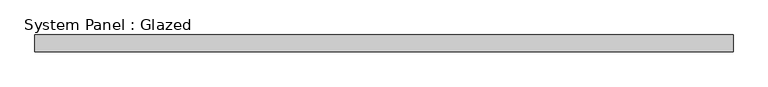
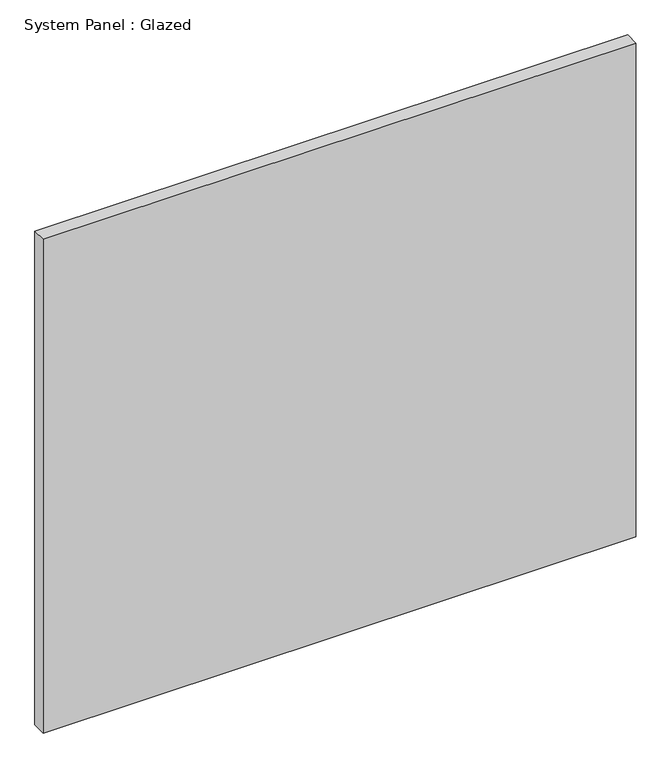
"""IFC4 building model written with IfcOpenShell, lengths in millimetres: plate geometry, System Panel : Glazed."""

import ifcopenshell
import ifcopenshell.guid

model = None  # the IFC model being written
_history = None  # IfcOwnerHistory: only IFC2X3 demands one
_inside = {}  # id of a spatial element -> (the spatial element, [elements in it])
_under = {}  # id of a project, library or spatial element -> (it, [spatial elements below it])
_declared = {}  # id of a project -> (the project, [libraries it declares])
_typed = {}  # id of a type object -> (the type object, [elements of that type])
_made_of = {}  # id of a material, layer set ... -> (it, [elements and type objects made of it])


def new_model(schema):
    """Start an empty IFC model of exactly this schema.

    Asked for "IFC4X3", IfcOpenShell would pick the latest addendum, in which some entities
    have other attributes; the version numbers below select the first issue.
    IFC2X3 requires an IfcOwnerHistory on every rooted entity: one is made here for all.
    """
    global model, _history
    if schema == "IFC4X3":
        model = ifcopenshell.file(schema_version=(4, 3, 0, 0))
    else:
        model = ifcopenshell.file(schema=schema)
    _inside.clear()
    _under.clear()
    _declared.clear()
    _typed.clear()
    _made_of.clear()
    _history = None
    if model.schema == "IFC2X3":
        org = make("IfcOrganization", Name="unknown")
        user = make(
            "IfcPersonAndOrganization",
            ThePerson=make("IfcPerson", FamilyName="unknown"),
            TheOrganization=org,
        )
        app = make(
            "IfcApplication",
            ApplicationDeveloper=org,
            Version="unknown",
            ApplicationFullName="unknown",
            ApplicationIdentifier="unknown",
        )
        _history = make(
            "IfcOwnerHistory",
            OwningUser=user,
            OwningApplication=app,
            ChangeAction="ADDED",
            CreationDate=0,
        )
    return model


def make(cls, **values):
    """One entity of the class cls with the attributes given. An attribute that is None is left unset."""
    return model.create_entity(
        cls, **{name: value for name, value in values.items() if value is not None}
    )


def rooted(cls, **values):
    """An entity with a GlobalId (a new one), such as an element, a storey or a relation."""
    return make(cls, GlobalId=ifcopenshell.guid.new(), OwnerHistory=_history, **values)


def si_unit(unit_type, name, prefix=None):
    """IfcSIUnit, for example si_unit("LENGTHUNIT", "METRE", prefix="MILLI")."""
    return make("IfcSIUnit", UnitType=unit_type, Prefix=prefix, Name=name)


def assignment(units):
    """IfcUnitAssignment: the units of a project."""
    return None if units is None else make("IfcUnitAssignment", Units=units)


def point(xyz):
    """IfcCartesianPoint."""
    return None if xyz is None else make("IfcCartesianPoint", Coordinates=xyz)


def direction(xyz):
    """IfcDirection."""
    return None if xyz is None else make("IfcDirection", DirectionRatios=xyz)


def frame(location, z_axis=None, x_axis=None):
    """IfcAxis2Placement3D, a coordinate frame: its origin and axes. An axis left out is left unset."""
    return make(
        "IfcAxis2Placement3D",
        Location=point(location),
        Axis=direction(z_axis),
        RefDirection=direction(x_axis),
    )


def origin():
    """The frame at (0, 0, 0) with its axes left unset."""
    return frame((0.0, 0.0, 0.0))


def origin_with_axes():
    """The frame at (0, 0, 0) with the z axis (0, 0, 1) and the x axis (1, 0, 0) written out."""
    return frame((0.0, 0.0, 0.0), z_axis=(0.0, 0.0, 1.0), x_axis=(1.0, 0.0, 0.0))


def place(relative_to, where):
    """IfcLocalPlacement: puts the frame where relative to a parent placement (None: the world)."""
    return make(
        "IfcLocalPlacement", PlacementRelTo=relative_to, RelativePlacement=where
    )


def context(
    kind, dimensions, precision=None, world=None, true_north=None, identifier=None
):
    """IfcGeometricRepresentationContext, for example the 3D "Model" context."""
    return make(
        "IfcGeometricRepresentationContext",
        ContextIdentifier=identifier,
        ContextType=kind,
        CoordinateSpaceDimension=dimensions,
        Precision=precision,
        WorldCoordinateSystem=world,
        TrueNorth=true_north,
    )


def project(units=None, contexts=None):
    """IfcProject with its units and contexts."""
    return rooted(
        "IfcProject",
        Name="project",
        RepresentationContexts=contexts,
        UnitsInContext=assignment(units),
    )


def spatial(cls, under=None, at=None, **own):
    """A site, building, storey or space (cls), placed at a placement, below another one or the project."""
    s = rooted(cls, ObjectPlacement=at, **own)
    if under is not None:
        _under.setdefault(under.id(), (under, []))[1].append(s)
    return s


def polyline(points):
    """IfcPolyline through the points."""
    return make("IfcPolyline", Points=[point(p) for p in points])


def outline(outer, holes=None, kind="AREA"):
    """IfcArbitraryClosedProfileDef: a profile drawn as a closed curve; with holes, ...WithVoids."""
    if holes is None:
        return make("IfcArbitraryClosedProfileDef", ProfileType=kind, OuterCurve=outer)
    return make(
        "IfcArbitraryProfileDefWithVoids",
        ProfileType=kind,
        OuterCurve=outer,
        InnerCurves=holes,
    )


def extrude(swept, where, along, depth):
    """IfcExtrudedAreaSolid: the profile swept, set in the frame where, extruded along a direction by depth."""
    return make(
        "IfcExtrudedAreaSolid",
        SweptArea=swept,
        Position=where,
        ExtrudedDirection=direction(along),
        Depth=depth,
    )


def shape(context_of_items, identifier, shape_type, items):
    """IfcShapeRepresentation: the items that make up one representation, for example the "Body"."""
    return make(
        "IfcShapeRepresentation",
        ContextOfItems=context_of_items,
        RepresentationIdentifier=identifier,
        RepresentationType=shape_type,
        Items=items,
    )


def source(mapping_origin, context_of_items, identifier, shape_type, items):
    """IfcRepresentationMap: a shape defined once, which mapped items show again and again."""
    return make(
        "IfcRepresentationMap",
        MappingOrigin=mapping_origin,
        MappedRepresentation=shape(context_of_items, identifier, shape_type, items),
    )


def transform(
    local_origin,
    x_axis=None,
    y_axis=None,
    z_axis=None,
    scale=None,
    scale2=None,
    scale3=None,
    uniform=True,
):
    """IfcCartesianTransformationOperator3D, or its non-uniform kind. x_axis, y_axis, z_axis: its Axis1, 2, 3."""
    if uniform:
        return make(
            "IfcCartesianTransformationOperator3D",
            Axis1=direction(x_axis),
            Axis2=direction(y_axis),
            LocalOrigin=point(local_origin),
            Scale=scale,
            Axis3=direction(z_axis),
        )
    return make(
        "IfcCartesianTransformationOperator3DnonUniform",
        Axis1=direction(x_axis),
        Axis2=direction(y_axis),
        LocalOrigin=point(local_origin),
        Scale=scale,
        Axis3=direction(z_axis),
        Scale2=scale2,
        Scale3=scale3,
    )


def mapped(mapping_source, mapping_target):
    """IfcMappedItem: shows the shape of a source again, moved by a transform."""
    return make(
        "IfcMappedItem", MappingSource=mapping_source, MappingTarget=mapping_target
    )


def made_of(thing, what):
    """Note that an element or type object is made of a material, layer set ...; save() writes the relation."""
    if what is not None:
        _made_of.setdefault(what.id(), (what, []))[1].append(thing)
    return thing


def element(
    cls,
    number,
    at=None,
    inside=None,
    cuts=None,
    type_object=None,
    material=None,
    context=None,
    identifier="Body",
    shape_type=None,
    held_by="IfcProductDefinitionShape",
    body=None,
    shapes=None,
    **own,
):
    """One element of the class cls, such as IfcWall. Its Tag is "e" and its number.

    at: its placement. inside: the storey or other place that contains it. cuts: it is an
    opening in that element (IfcRelVoidsElement). A single representation is given by context,
    identifier, shape_type and body (its items); several are given by shapes. held_by: the class
    of the entity that holds the representations. save() writes the other relations.
    """
    e = rooted(cls, Tag="e%d" % number, ObjectPlacement=at, **own)
    if body is not None:
        shapes = [shape(context, identifier, shape_type, body)]
    if shapes is not None:
        e.Representation = make(held_by, Representations=shapes)
    if inside is not None:
        _inside.setdefault(inside.id(), (inside, []))[1].append(e)
    if cuts is not None:
        rooted(
            "IfcRelVoidsElement", RelatingBuildingElement=cuts, RelatedOpeningElement=e
        )
    if type_object is not None:
        _typed.setdefault(type_object.id(), (type_object, []))[1].append(e)
    return made_of(e, material)


def aggregate(whole, parts):
    """IfcRelAggregates: a whole, such as a stair, and the parts it consists of."""
    return rooted("IfcRelAggregates", RelatingObject=whole, RelatedObjects=parts)


def save(model, path):
    """Write the relations noted so far, then the file.

    IfcRelAggregates (storeys below a building ...), IfcRelContainedInSpatialStructure (elements
    in a storey), IfcRelDefinesByType, IfcRelAssociatesMaterial and IfcRelDeclares: one each for
    every whole, place, type object, material and project.
    """
    for whole, parts in _under.values():
        aggregate(whole, parts)
    for where, things in _inside.values():
        rooted(
            "IfcRelContainedInSpatialStructure",
            RelatedElements=things,
            RelatingStructure=where,
        )
    for kind, things in _typed.values():
        rooted("IfcRelDefinesByType", RelatedObjects=things, RelatingType=kind)
    for what, things in _made_of.values():
        rooted("IfcRelAssociatesMaterial", RelatedObjects=things, RelatingMaterial=what)
    for by, libraries in _declared.values():
        rooted("IfcRelDeclares", RelatingContext=by, RelatedDefinitions=libraries)
    model.write(path)


def system_panel_glazed_57f08e05(model_context):
    return source(origin(), model_context, "Body", "SweptSolid", [
        extrude(outline(polyline([(524.9999999, 24.5), (-524.9999999, 24.5), (-524.9999999, 49.5), (524.9999999, 49.5), (524.9999999, 24.5)])), origin_with_axes(), (0.0, 0.0, 1.0), 925.0),
    ])


if __name__ == "__main__":
    model = new_model("IFC4")
    model_context = context("Model", 3, world=origin())
    ifc_project = project(units=[si_unit("LENGTHUNIT", "METRE", prefix="MILLI")], contexts=[model_context])
    site = spatial("IfcSite", under=ifc_project)
    building = spatial("IfcBuilding", under=site)
    placement = place(None, origin())
    system_panel_glazed_shape = system_panel_glazed_57f08e05(model_context)
    element("IfcPlate", 1, ObjectType="System Panel : Glazed", at=placement, inside=building, context=model_context, shape_type="MappedRepresentation", body=[
        mapped(system_panel_glazed_shape, transform((0.0, 0.0, 0.0), x_axis=(1.0, 0.0, 0.0), y_axis=(0.0, 1.0, 0.0), z_axis=(0.0, 0.0, 1.0))),
    ])
    save(model, "model.ifc")
